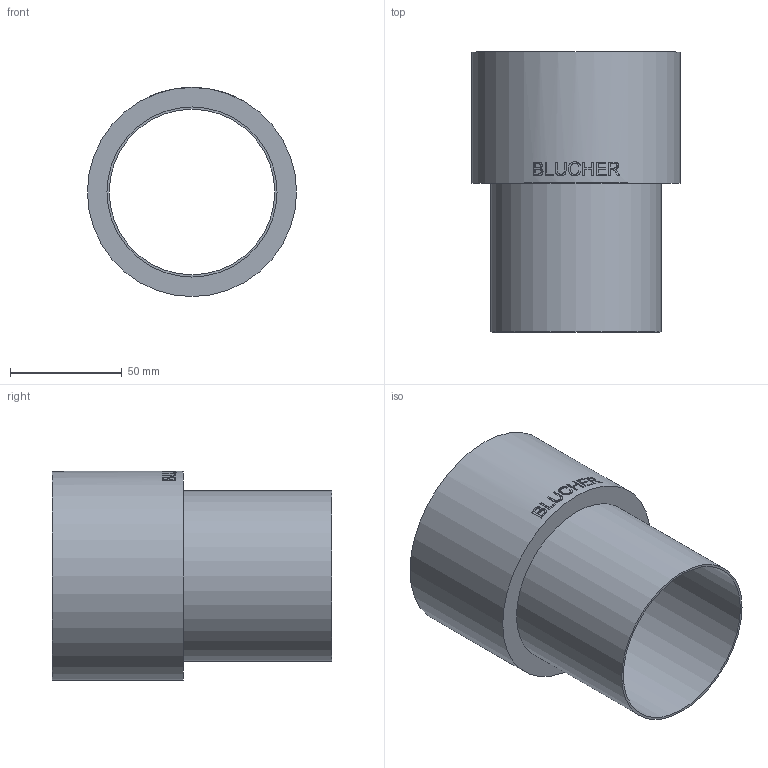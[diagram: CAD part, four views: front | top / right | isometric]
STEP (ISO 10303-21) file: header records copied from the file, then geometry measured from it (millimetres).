
FILE_DESCRIPTION((''),'2;1');
FILE_NAME('I:\WATTS\3D_CAD\3D_CAD_Models\Blucher_Drains\Fittings\Adapters\WebsiteFiles\3D\STEP\CIA-3-316.stp','2009-12-30T13:50:51',('menesek'),(''),'Autodesk Inventor 2010','Autodesk Inventor 2010','');
FILE_SCHEMA(('AUTOMOTIVE_DESIGN { 1 0 10303 214 1 1 1 1 }'));
Length unit declared in the file: inch
Products named in the file (1): CIA-3-316
Bounding box: 93.66 x 125.41 x 93.66 mm (x, y, z)
Volume: 35659.3 mm3; surface area: 70828.5 mm2
Topology: 1 solids, 1 shells, 106 faces, 276 edges, 184 vertices
Faces by surface type: plane 58, bspline 34, cylinder 14
Full cylindrical faces by diameter (mm): 74.168 x1, 76.2 x1, 91.631 x1, 93.663 x1
Entity records: 13833 total; most frequent: CARTESIAN_POINT 11489, ORIENTED_EDGE 544, DIRECTION 348, EDGE_CURVE 272, VERTEX_POINT 184, EDGE_LOOP 124, AXIS2_PLACEMENT_3D 116, VECTOR 116
